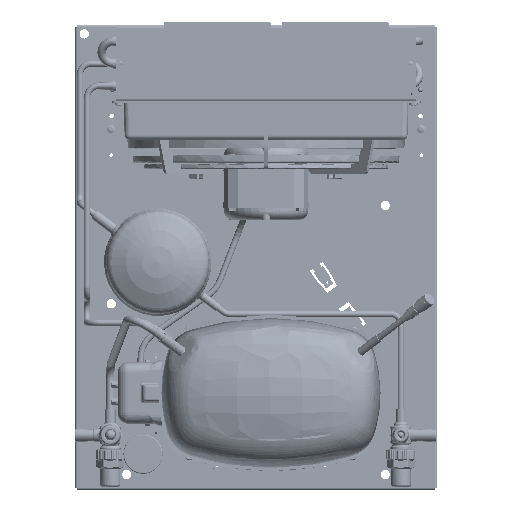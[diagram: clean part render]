
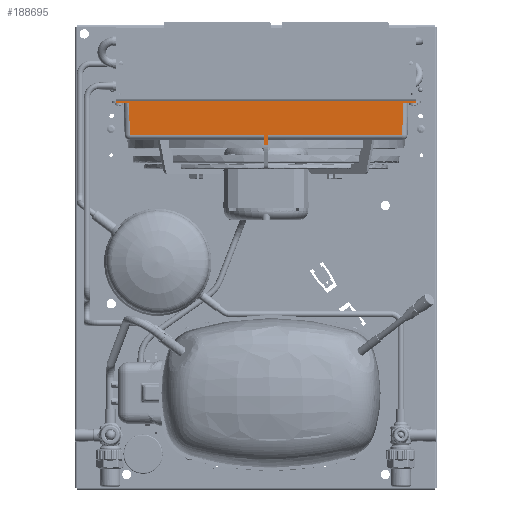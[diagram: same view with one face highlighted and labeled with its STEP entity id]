
A CAD part, top view. The second image highlights one B-rep face of the part: STEP entity #188695.
In plain terms, the highlighted planar face has unit normal (0, -0.018, 1) as drawn and (0, 1, 0.017) by its records, which use the part's own axes.
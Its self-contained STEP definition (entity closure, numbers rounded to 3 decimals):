
#4005=B_SPLINE_CURVE_WITH_KNOTS('',3,(#375771,#375772,#375773,#375774,#375775,
#375776,#375777,#375778,#375779,#375780),.UNSPECIFIED.,.F.,.F.,(4,1,1,1,
1,1,1,4),(0.,0.001,0.001,
0.001,0.002,0.002,0.002,
0.002),.UNSPECIFIED.);
#4006=B_SPLINE_CURVE_WITH_KNOTS('',3,(#375922,#375923,#375924,#375925,#375926,
#375927,#375928,#375929,#375930,#375931),.UNSPECIFIED.,.F.,.F.,(4,1,1,1,
1,1,1,4),(0.,0.001,0.001,
0.001,0.002,0.002,0.002,
0.002),.UNSPECIFIED.);
#67862=ORIENTED_EDGE('',*,*,#103447,.F.);
#67863=ORIENTED_EDGE('',*,*,#103448,.T.);
#67864=ORIENTED_EDGE('',*,*,#103449,.T.);
#67865=ORIENTED_EDGE('',*,*,#101815,.F.);
#67866=ORIENTED_EDGE('',*,*,#103361,.T.);
#67867=ORIENTED_EDGE('',*,*,#101766,.F.);
#67868=ORIENTED_EDGE('',*,*,#103432,.F.);
#67869=ORIENTED_EDGE('',*,*,#101790,.T.);
#67870=ORIENTED_EDGE('',*,*,#103450,.T.);
#67871=ORIENTED_EDGE('',*,*,#103451,.T.);
#67872=ORIENTED_EDGE('',*,*,#103452,.T.);
#67873=ORIENTED_EDGE('',*,*,#103453,.F.);
#101766=EDGE_CURVE('',#121814,#121815,#137277,.T.);
#101790=EDGE_CURVE('',#121838,#121839,#137297,.T.);
#101815=EDGE_CURVE('',#121863,#121864,#137317,.T.);
#103361=EDGE_CURVE('',#121863,#121815,#4005,.T.);
#103432=EDGE_CURVE('',#121838,#121814,#4006,.T.);
#103447=EDGE_CURVE('',#122926,#122927,#137729,.T.);
#103448=EDGE_CURVE('',#122926,#122928,#137730,.F.);
#103449=EDGE_CURVE('',#122928,#121864,#137731,.F.);
#103450=EDGE_CURVE('',#121839,#122929,#137732,.T.);
#103451=EDGE_CURVE('',#122929,#122930,#137733,.F.);
#103452=EDGE_CURVE('',#122930,#122931,#137734,.T.);
#103453=EDGE_CURVE('',#122927,#122931,#137735,.T.);
#121814=VERTEX_POINT('',#339106);
#121815=VERTEX_POINT('',#339108);
#121838=VERTEX_POINT('',#339156);
#121839=VERTEX_POINT('',#339157);
#121863=VERTEX_POINT('',#339206);
#121864=VERTEX_POINT('',#339208);
#122926=VERTEX_POINT('',#375963);
#122927=VERTEX_POINT('',#375964);
#122928=VERTEX_POINT('',#375966);
#122929=VERTEX_POINT('',#375969);
#122930=VERTEX_POINT('',#375971);
#122931=VERTEX_POINT('',#375973);
#137277=LINE('',#339107,#149233);
#137297=LINE('',#339155,#149253);
#137317=LINE('',#339207,#149273);
#137729=LINE('',#375962,#149685);
#137730=LINE('',#375965,#149686);
#137731=LINE('',#375967,#149687);
#137732=LINE('',#375968,#149688);
#137733=LINE('',#375970,#149689);
#137734=LINE('',#375972,#149690);
#137735=LINE('',#375974,#149691);
#149233=VECTOR('',#224906,1000.);
#149253=VECTOR('',#224936,1000.);
#149273=VECTOR('',#224968,1000.);
#149685=VECTOR('',#226716,1000.);
#149686=VECTOR('',#226717,1000.);
#149687=VECTOR('',#226718,1000.);
#149688=VECTOR('',#226719,1000.);
#149689=VECTOR('',#226720,1000.);
#149690=VECTOR('',#226721,1000.);
#149691=VECTOR('',#226722,1000.);
#160210=EDGE_LOOP('',(#67862,#67863,#67864,#67865,#67866,#67867,#67868,
#67869,#67870,#67871,#67872,#67873));
#172004=FACE_BOUND('',#160210,.T.);
#180660=PLANE('',#200589);
#188695=ADVANCED_FACE('',(#172004),#180660,.F.);
#200589=AXIS2_PLACEMENT_3D('',#375961,#226714,#226715);
#224906=DIRECTION('',(1.,0.,0.));
#224936=DIRECTION('',(1.,0.,0.));
#224968=DIRECTION('',(-1.,0.,0.));
#226714=DIRECTION('',(0.,-1.,-0.017));
#226715=DIRECTION('',(0.,0.017,-1.));
#226716=DIRECTION('',(0.,-0.017,1.));
#226717=DIRECTION('',(-1.,0.,0.));
#226718=DIRECTION('',(-0.017,-0.017,1.));
#226719=DIRECTION('',(0.017,-0.017,1.));
#226720=DIRECTION('',(-1.,0.,0.));
#226721=DIRECTION('',(0.,-0.017,1.));
#226722=DIRECTION('',(-1.,0.,0.));
#339106=CARTESIAN_POINT('',(-144.375,138.363,0.));
#339107=CARTESIAN_POINT('',(-144.375,138.363,0.));
#339108=CARTESIAN_POINT('',(144.375,138.363,0.));
#339155=CARTESIAN_POINT('',(140.869,138.328,2.));
#339156=CARTESIAN_POINT('',(-144.965,138.328,2.));
#339157=CARTESIAN_POINT('',(-132.329,138.328,2.));
#339206=CARTESIAN_POINT('',(144.965,138.328,2.));
#339207=CARTESIAN_POINT('',(140.869,138.328,2.));
#339208=CARTESIAN_POINT('',(132.329,138.328,2.));
#375771=CARTESIAN_POINT('',(144.965,138.328,2.));
#375772=CARTESIAN_POINT('',(144.939,138.331,1.824));
#375773=CARTESIAN_POINT('',(144.884,138.338,1.472));
#375774=CARTESIAN_POINT('',(144.802,138.345,1.035));
#375775=CARTESIAN_POINT('',(144.723,138.351,0.688));
#375776=CARTESIAN_POINT('',(144.653,138.356,0.431));
#375777=CARTESIAN_POINT('',(144.577,138.359,0.22));
#375778=CARTESIAN_POINT('',(144.492,138.362,0.066));
#375779=CARTESIAN_POINT('',(144.42,138.363,0.));
#375780=CARTESIAN_POINT('',(144.375,138.363,0.));
#375922=CARTESIAN_POINT('',(-144.965,138.328,2.));
#375923=CARTESIAN_POINT('',(-144.939,138.331,1.824));
#375924=CARTESIAN_POINT('',(-144.884,138.338,1.472));
#375925=CARTESIAN_POINT('',(-144.802,138.345,1.035));
#375926=CARTESIAN_POINT('',(-144.723,138.351,0.688));
#375927=CARTESIAN_POINT('',(-144.653,138.356,0.431));
#375928=CARTESIAN_POINT('',(-144.577,138.359,0.22));
#375929=CARTESIAN_POINT('',(-144.492,138.362,0.066));
#375930=CARTESIAN_POINT('',(-144.42,138.363,0.));
#375931=CARTESIAN_POINT('',(-144.375,138.363,0.));
#375961=CARTESIAN_POINT('',(432.954,137.811,31.613));
#375962=CARTESIAN_POINT('',(1.5,137.617,42.731));
#375963=CARTESIAN_POINT('',(1.5,137.786,33.087));
#375964=CARTESIAN_POINT('',(1.5,137.617,42.731));
#375965=CARTESIAN_POINT('',(432.954,137.786,33.087));
#375966=CARTESIAN_POINT('',(131.787,137.786,33.087));
#375967=CARTESIAN_POINT('',(132.331,138.33,1.913));
#375968=CARTESIAN_POINT('',(-131.702,137.702,37.913));
#375969=CARTESIAN_POINT('',(-131.787,137.786,33.087));
#375970=CARTESIAN_POINT('',(432.954,137.786,33.087));
#375971=CARTESIAN_POINT('',(-1.5,137.786,33.087));
#375972=CARTESIAN_POINT('',(-1.5,137.617,42.731));
#375973=CARTESIAN_POINT('',(-1.5,137.617,42.731));
#375974=CARTESIAN_POINT('',(1.5,137.617,42.731));
